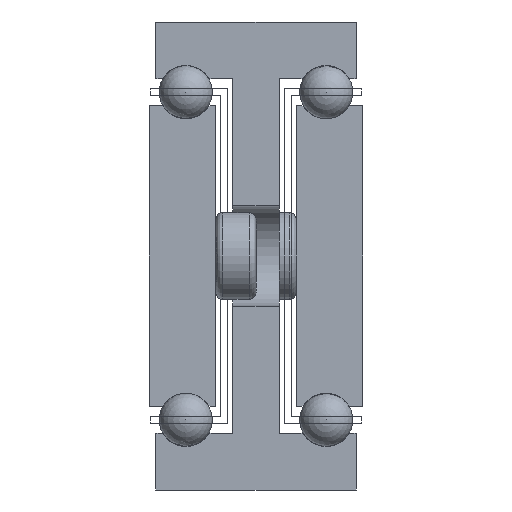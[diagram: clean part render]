
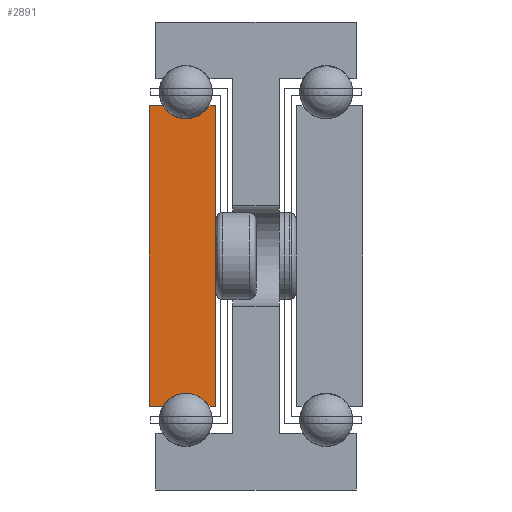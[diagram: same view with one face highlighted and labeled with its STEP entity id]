
A CAD part, front view. The second image highlights one B-rep face of the part: STEP entity #2891.
In plain terms, the highlighted planar face has unit normal (0, -1, 0).
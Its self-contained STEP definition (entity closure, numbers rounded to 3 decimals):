
#172=LINE('',#4286,#384);
#175=LINE('',#4292,#387);
#179=LINE('',#4304,#391);
#182=LINE('',#4310,#394);
#185=LINE('',#4316,#397);
#189=LINE('',#4326,#401);
#384=VECTOR('',#3442,1.);
#387=VECTOR('',#3447,1.);
#391=VECTOR('',#3459,1.);
#394=VECTOR('',#3464,1.);
#397=VECTOR('',#3469,1.);
#401=VECTOR('',#3481,1.);
#601=PLANE('',#3107);
#817=FACE_OUTER_BOUND('',#999,.T.);
#999=EDGE_LOOP('',(#2216,#2217,#2218,#2219,#2220,#2221,#2222,#2223));
#1257=CIRCLE('',#3098,4.);
#1259=CIRCLE('',#3104,4.);
#1422=VERTEX_POINT('',#4283);
#1423=VERTEX_POINT('',#4285);
#1425=VERTEX_POINT('',#4291);
#1427=VERTEX_POINT('',#4297);
#1429=VERTEX_POINT('',#4303);
#1431=VERTEX_POINT('',#4309);
#1433=VERTEX_POINT('',#4315);
#1435=VERTEX_POINT('',#4321);
#1764=EDGE_CURVE('',#1423,#1422,#172,.T.);
#1767=EDGE_CURVE('',#1425,#1423,#175,.T.);
#1770=EDGE_CURVE('',#1427,#1425,#1257,.T.);
#1773=EDGE_CURVE('',#1429,#1427,#179,.T.);
#1776=EDGE_CURVE('',#1431,#1429,#182,.T.);
#1779=EDGE_CURVE('',#1433,#1431,#185,.T.);
#1782=EDGE_CURVE('',#1435,#1433,#1259,.T.);
#1785=EDGE_CURVE('',#1422,#1435,#189,.T.);
#2216=ORIENTED_EDGE('',*,*,#1785,.T.);
#2217=ORIENTED_EDGE('',*,*,#1782,.T.);
#2218=ORIENTED_EDGE('',*,*,#1779,.T.);
#2219=ORIENTED_EDGE('',*,*,#1776,.T.);
#2220=ORIENTED_EDGE('',*,*,#1773,.T.);
#2221=ORIENTED_EDGE('',*,*,#1770,.T.);
#2222=ORIENTED_EDGE('',*,*,#1767,.T.);
#2223=ORIENTED_EDGE('',*,*,#1764,.T.);
#2891=ADVANCED_FACE('',(#817),#601,.T.);
#3098=AXIS2_PLACEMENT_3D('',#4298,#3453,#3454);
#3104=AXIS2_PLACEMENT_3D('',#4322,#3475,#3476);
#3107=AXIS2_PLACEMENT_3D('',#4328,#3484,#3485);
#3442=DIRECTION('',(0.,0.,-1.));
#3447=DIRECTION('',(-1.,0.,0.));
#3453=DIRECTION('center_axis',(0.,1.,0.));
#3454=DIRECTION('ref_axis',(-0.866,0.,-0.5));
#3459=DIRECTION('',(-1.,0.,0.));
#3464=DIRECTION('',(0.,0.,1.));
#3469=DIRECTION('',(1.,0.,0.));
#3475=DIRECTION('center_axis',(0.,1.,0.));
#3476=DIRECTION('ref_axis',(0.866,0.,0.5));
#3481=DIRECTION('',(1.,0.,0.));
#3484=DIRECTION('center_axis',(0.,-1.,0.));
#3485=DIRECTION('ref_axis',(1.,0.,0.));
#4283=CARTESIAN_POINT('',(4724.703,95.707,2.));
#4285=CARTESIAN_POINT('',(4724.703,95.707,47.));
#4286=CARTESIAN_POINT('',(4724.703,95.707,2.));
#4291=CARTESIAN_POINT('',(4726.739,95.707,47.));
#4292=CARTESIAN_POINT('',(4724.703,95.707,47.));
#4297=CARTESIAN_POINT('',(4733.667,95.707,47.));
#4298=CARTESIAN_POINT('Origin',(4730.203,95.707,49.));
#4303=CARTESIAN_POINT('',(4734.703,95.707,47.));
#4304=CARTESIAN_POINT('',(4733.667,95.707,47.));
#4309=CARTESIAN_POINT('',(4734.703,95.707,2.));
#4310=CARTESIAN_POINT('',(4734.703,95.707,47.));
#4315=CARTESIAN_POINT('',(4733.667,95.707,2.));
#4316=CARTESIAN_POINT('',(4734.703,95.707,2.));
#4321=CARTESIAN_POINT('',(4726.739,95.707,2.));
#4322=CARTESIAN_POINT('Origin',(4730.203,95.707,0.));
#4326=CARTESIAN_POINT('',(4726.739,95.707,2.));
#4328=CARTESIAN_POINT('Origin',(4729.697,95.707,24.5));
